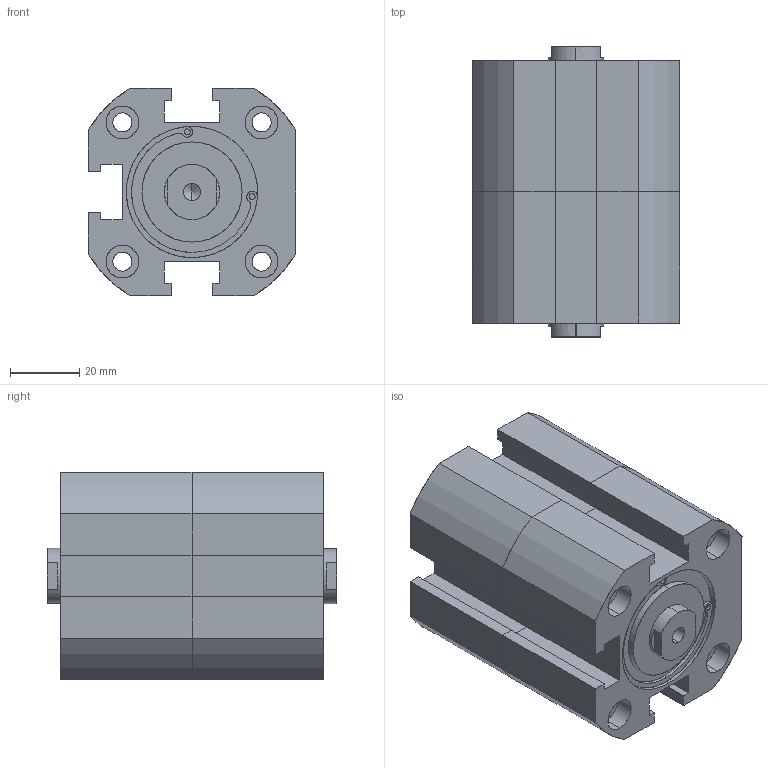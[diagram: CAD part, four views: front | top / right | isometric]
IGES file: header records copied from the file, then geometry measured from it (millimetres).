
Start section: SolidWorks IGES file using analytic representation for surfaces
Global section: file name: C:\Users\Toshiba\Desktop\XCD7-40-10-10.IGS; native system: SolidWorks 2014; preprocessor: SolidWorks 2014; author: Toshiba; date: 160805.093943; units: millimetre
Bounding box: 60 x 84 x 60 mm (x, y, z)
Surface area: 43129.9 mm2 (no closed solid volume)
Topology: 0 solids, 0 shells, 228 faces, 4028 edges, 4016 vertices
Faces by surface type: revolution 128, bspline 100
